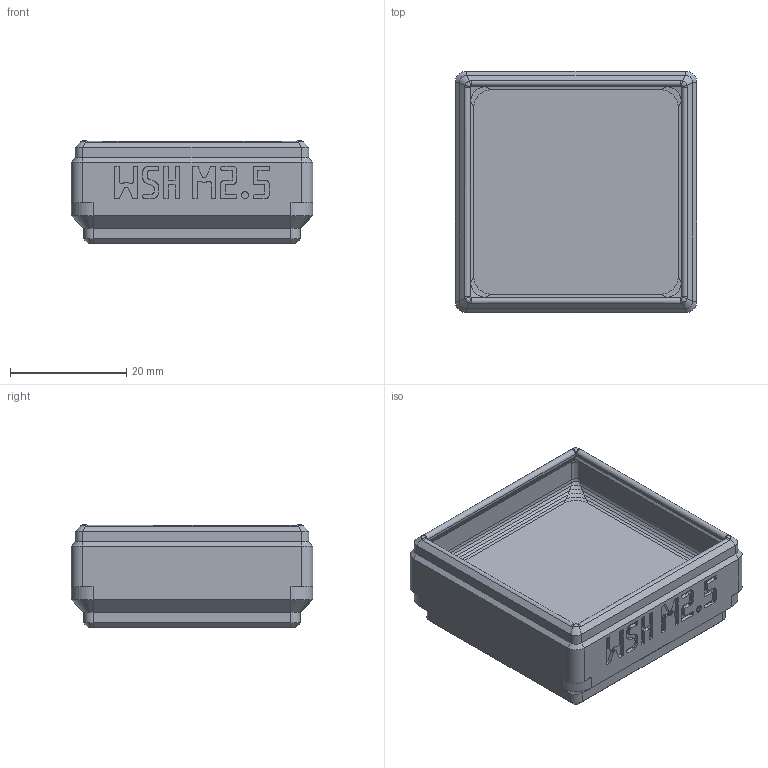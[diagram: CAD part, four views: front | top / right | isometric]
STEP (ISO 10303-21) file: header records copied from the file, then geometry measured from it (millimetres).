
FILE_DESCRIPTION(('Open CASCADE Model'),'2;1');
FILE_NAME('Open CASCADE Shape Model','2026-11-03T14:04:38',('Author'),( 'Open CASCADE'),'Open CASCADE STEP processor 8.0','build123d', 'Unknown');
FILE_SCHEMA(('AUTOMOTIVE_DESIGN { 1 0 10303 214 1 1 1 1 }'));
Products named in the file (1): SOLID
Bounding box: 41.5 x 41.5 x 17.7 mm (x, y, z)
Volume: 11831.2 mm3; surface area: 10772.5 mm2
Topology: 1 solids, 2 shells, 932 faces, 2624 edges, 1704 vertices
Faces by surface type: plane 796, bspline 92, cylinder 32, cone 12
Entity records: 67224 total; most frequent: CARTESIAN_POINT 15581, DIRECTION 9158, LINE 7276, VECTOR 7276, ORIENTED_EDGE 5248, PCURVE 5248, DEFINITIONAL_REPRESENTATION 5248, EDGE_CURVE 2624
